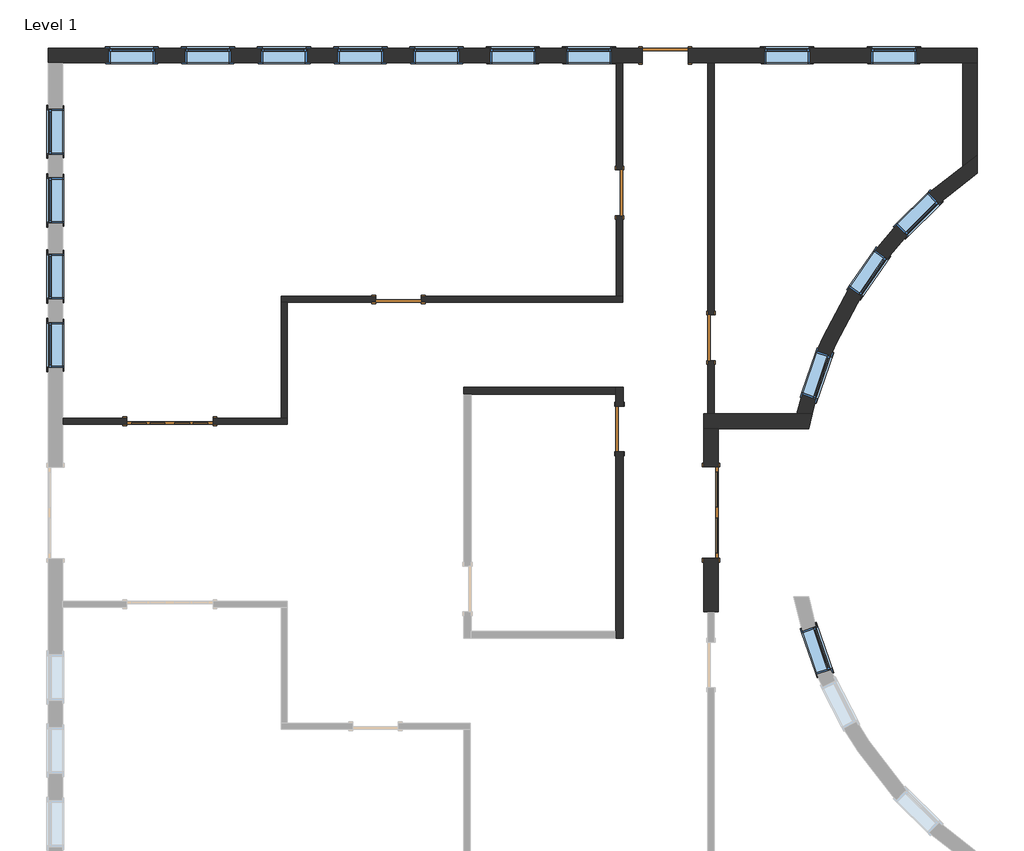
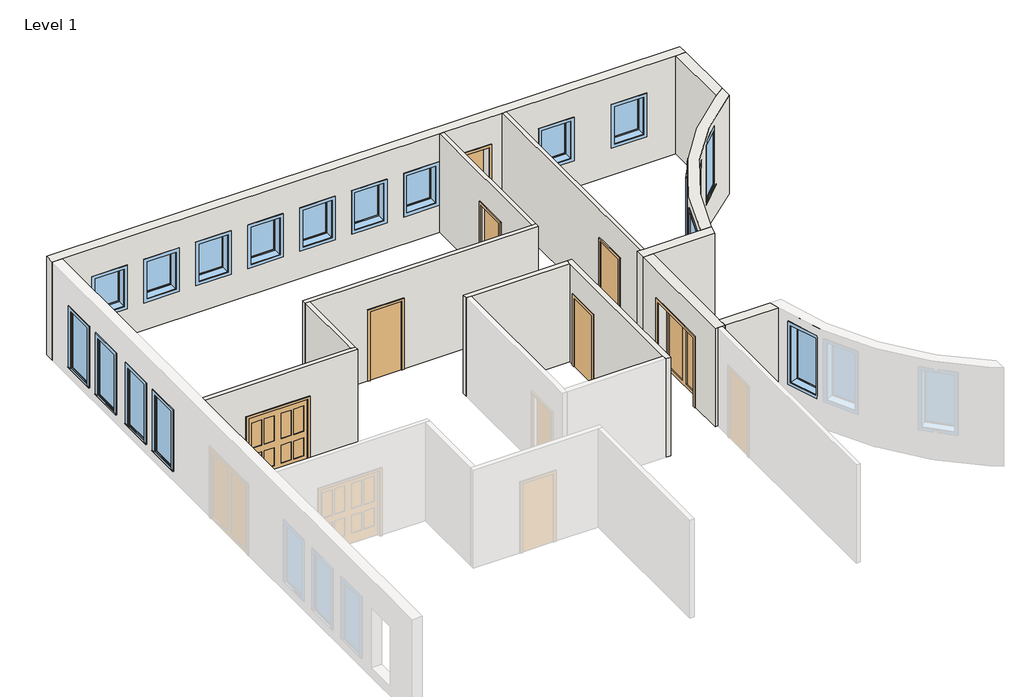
# One storey, part 2 of 2: 17 windows, 13 walls, 7 doors.
"""IFC4 building model written with IfcOpenShell, lengths in millimetres."""

from ifc_helpers import new_model, si_unit, point, frame, frame_2d, origin, origin_with_axes, place, context, project, spatial, polyline, circle_curve, trimmed, segment, composite_curve, outline, extrude, faceted_brep, transform, mapped, element, save
from ifc_brep_helpers import plane_surface, cylinder_surface, revolved_surface, advanced_brep
from components import door_e9d87526, door_c173eac2, door_617da642, door_88503111, door_3dff5d0e, fixed_6768491c, fixed_81e87f0c, fixed_94481ef7

model = new_model("IFC4")

# Units and contexts
model_context = context("Model", 3, world=origin())
ifc_project = project(units=[si_unit("LENGTHUNIT", "METRE", prefix="MILLI")], contexts=[model_context])

# Site, building, storey
site = spatial("IfcSite", under=ifc_project)
building = spatial("IfcBuilding", under=site)
storey = spatial("IfcBuildingStorey", under=building, Name="Level 1", Elevation=0.0)

# Doors
placement = place(None, origin())
door_shape = door_e9d87526(model_context)
element("IfcDoor", 1, ObjectType="Double-Glass 1 : 72\" x 84\"", at=placement, inside=storey, context=model_context, shape_type="MappedRepresentation", body=[
    mapped(door_shape, transform((2356.1311274, -430.8085073, 0.0), x_axis=(0.0, -1.0, 0.0), y_axis=(1.0, 0.0, 0.0), z_axis=(0.0, 0.0, 1.0))),
])
door_2_shape = door_c173eac2(model_context)
element("IfcDoor", 2, ObjectType="Double-Panel 2 : 68\" x 80\"", at=placement, inside=storey, context=model_context, shape_type="MappedRepresentation", body=[
    mapped(door_2_shape, transform((-8461.8876226, 1393.2289927, 0.0), x_axis=(-1.0, 0.0, 0.0), y_axis=(0.0, -1.0, 0.0), z_axis=(0.0, 0.0, 1.0))),
])
door_3_shape = door_617da642(model_context)
element("IfcDoor", 3, ObjectType="Sgl Flush : 36\" x 84\"", at=placement, inside=storey, context=model_context, shape_type="MappedRepresentation", body=[
    mapped(door_3_shape, transform((1444.1123774, 8708.4289927, 0.0), x_axis=(-1.0, 0.0, 0.0), y_axis=(0.0, -1.0, 0.0), z_axis=(0.0, 0.0, 1.0))),
])
door_4_shape = door_88503111(model_context)
element("IfcDoor", 4, ObjectType="Sgl Flush : 36\" x 84\"", at=placement, inside=storey, context=model_context, shape_type="MappedRepresentation", body=[
    mapped(door_4_shape, transform((-3889.8876226, 3831.6289927, 0.0), x_axis=(-1.0, 0.0, 0.0), y_axis=(0.0, -1.0, 0.0), z_axis=(0.0, 0.0, 1.0))),
])
element("IfcDoor", 5, ObjectType="Sgl Flush : 36\" x 84\"", at=placement, inside=storey, context=model_context, shape_type="MappedRepresentation", body=[
    mapped(door_4_shape, transform((529.7123774, 5965.2289927, 0.0), x_axis=(0.0, -1.0, 0.0), y_axis=(1.0, 0.0, 0.0), z_axis=(0.0, 0.0, 1.0))),
])
element("IfcDoor", 6, ObjectType="Sgl Flush : 36\" x 84\"", at=placement, inside=storey, context=model_context, shape_type="MappedRepresentation", body=[
    mapped(door_4_shape, transform((2358.5123774, 3064.8664927, 0.0), x_axis=(0.0, 1.0, 0.0), y_axis=(-1.0, 0.0, 0.0), z_axis=(0.0, 0.0, 1.0))),
])
door_5_shape = door_3dff5d0e(model_context)
element("IfcDoor", 7, ObjectType="Sgl Flush : 36\" x 84\"", at=placement, inside=storey, context=model_context, shape_type="MappedRepresentation", body=[
    mapped(door_5_shape, transform((529.7123774, 1240.8289927, 0.0), x_axis=(0.0, 1.0, 0.0), y_axis=(-1.0, 0.0, 0.0), z_axis=(0.0, 0.0, 1.0))),
])

# Walls
element("IfcWall", 8, ObjectType="Generic - 12\" Masonry", at=placement, inside=storey, context=model_context, shape_type="Brep", body=[
    faceted_brep([(-10895.5251226, 8560.7914927, 0.0), (-10600.2501226, 8560.7914927, 0.0), (467.7998774, 8560.7914927, 0.0), (591.6248774, 8560.7914927, 0.0), (986.9123774, 8560.7914927, 0.0), (986.9123774, 8560.7914927, 2133.6), (1901.3123774, 8560.7914927, 2133.6), (1901.3123774, 8560.7914927, 0.0), (2296.5998774, 8560.7914927, 0.0), (2420.4248774, 8560.7914927, 0.0), (7392.4748774, 8560.7914927, 0.0), (7687.7498774, 8560.7914927, 0.0), (7687.7498774, 8560.7914927, 3048.0), (7392.4748774, 8560.7914927, 3048.0), (2420.4248774, 8560.7914927, 3048.0), (2296.5998774, 8560.7914927, 3048.0), (591.6248774, 8560.7914927, 3048.0), (467.7998774, 8560.7914927, 3048.0), (-10600.2501226, 8560.7914927, 3048.0), (-10895.5251226, 8560.7914927, 3048.0), (-8766.6876226, 8560.7914927, 2133.6), (-8766.6876226, 8560.7914927, 914.4), (-9681.0876226, 8560.7914927, 914.4), (-9681.0876226, 8560.7914927, 2133.6), (-7242.6876226, 8560.7914927, 2133.6), (-7242.6876226, 8560.7914927, 914.4), (-8157.0876226, 8560.7914927, 914.4), (-8157.0876226, 8560.7914927, 2133.6), (-5718.6876226, 8560.7914927, 2133.6), (-5718.6876226, 8560.7914927, 914.4), (-6633.0876226, 8560.7914927, 914.4), (-6633.0876226, 8560.7914927, 2133.6), (-4194.6876226, 8560.7914927, 2133.6), (-4194.6876226, 8560.7914927, 914.4), (-5109.0876226, 8560.7914927, 914.4), (-5109.0876226, 8560.7914927, 2133.6), (-2670.6876226, 8560.7914927, 2133.6), (-2670.6876226, 8560.7914927, 914.4), (-3585.0876226, 8560.7914927, 914.4), (-3585.0876226, 8560.7914927, 2133.6), (-1146.6876226, 8560.7914927, 2133.6), (-1146.6876226, 8560.7914927, 914.4), (-2061.0876226, 8560.7914927, 914.4), (-2061.0876226, 8560.7914927, 2133.6), (377.3123774, 8560.7914927, 2133.6), (377.3123774, 8560.7914927, 914.4), (-537.0876226, 8560.7914927, 914.4), (-537.0876226, 8560.7914927, 2133.6), (4339.7123774, 8560.7914927, 2133.6), (4339.7123774, 8560.7914927, 914.4), (3425.3123774, 8560.7914927, 914.4), (3425.3123774, 8560.7914927, 2133.6), (6473.3123774, 8560.7914927, 2133.6), (6473.3123774, 8560.7914927, 914.4), (5558.9123774, 8560.7914927, 914.4), (5558.9123774, 8560.7914927, 2133.6), (986.9123774, 8856.0664927, 2133.6), (986.9123774, 8856.0664927, 0.0), (-10895.5251226, 8856.0664927, 0.0), (-10895.5251226, 8856.0664927, 3048.0), (7687.7498774, 8856.0664927, 3048.0), (7687.7498774, 8856.0664927, 0.0), (1901.3123774, 8856.0664927, 0.0), (1901.3123774, 8856.0664927, 2133.6), (-8766.6876226, 8856.0664927, 2133.6), (-9681.0876226, 8856.0664927, 2133.6), (-9681.0876226, 8856.0664927, 914.4), (-8766.6876226, 8856.0664927, 914.4), (-7242.6876226, 8856.0664927, 2133.6), (-8157.0876226, 8856.0664927, 2133.6), (-8157.0876226, 8856.0664927, 914.4), (-7242.6876226, 8856.0664927, 914.4), (-5718.6876226, 8856.0664927, 2133.6), (-6633.0876226, 8856.0664927, 2133.6), (-6633.0876226, 8856.0664927, 914.4), (-5718.6876226, 8856.0664927, 914.4), (-4194.6876226, 8856.0664927, 2133.6), (-5109.0876226, 8856.0664927, 2133.6), (-5109.0876226, 8856.0664927, 914.4), (-4194.6876226, 8856.0664927, 914.4), (-2670.6876226, 8856.0664927, 2133.6), (-3585.0876226, 8856.0664927, 2133.6), (-3585.0876226, 8856.0664927, 914.4), (-2670.6876226, 8856.0664927, 914.4), (-1146.6876226, 8856.0664927, 2133.6), (-2061.0876226, 8856.0664927, 2133.6), (-2061.0876226, 8856.0664927, 914.4), (-1146.6876226, 8856.0664927, 914.4), (377.3123774, 8856.0664927, 2133.6), (-537.0876226, 8856.0664927, 2133.6), (-537.0876226, 8856.0664927, 914.4), (377.3123774, 8856.0664927, 914.4), (4339.7123774, 8856.0664927, 2133.6), (3425.3123774, 8856.0664927, 2133.6), (3425.3123774, 8856.0664927, 914.4), (4339.7123774, 8856.0664927, 914.4), (6473.3123774, 8856.0664927, 2133.6), (5558.9123774, 8856.0664927, 2133.6), (5558.9123774, 8856.0664927, 914.4), (6473.3123774, 8856.0664927, 914.4)], [[[0, 1, 2, 3, 4, 5, 6, 7, 8, 9, 10, 11, 12, 13, 14, 15, 16, 17, 18, 19], [20, 21, 22, 23], [24, 25, 26, 27], [28, 29, 30, 31], [32, 33, 34, 35], [36, 37, 38, 39], [40, 41, 42, 43], [44, 45, 46, 47], [48, 49, 50, 51], [52, 53, 54, 55]], [[56, 57, 58, 59, 60, 61, 62, 63], [64, 65, 66, 67], [68, 69, 70, 71], [72, 73, 74, 75], [76, 77, 78, 79], [80, 81, 82, 83], [84, 85, 86, 87], [88, 89, 90, 91], [92, 93, 94, 95], [96, 97, 98, 99]], [[62, 61, 11, 10, 9, 8, 7]], [[58, 57, 4, 3, 2, 1, 0]], [[19, 18, 17, 16, 15, 14, 13, 12, 60, 59]], [[0, 19, 59, 58]], [[5, 4, 57, 56]], [[6, 5, 56, 63]], [[7, 6, 63, 62]], [[12, 11, 61, 60]], [[21, 20, 64, 67]], [[22, 21, 67, 66]], [[23, 22, 66, 65]], [[20, 23, 65, 64]], [[25, 24, 68, 71]], [[26, 25, 71, 70]], [[27, 26, 70, 69]], [[24, 27, 69, 68]], [[29, 28, 72, 75]], [[30, 29, 75, 74]], [[31, 30, 74, 73]], [[28, 31, 73, 72]], [[33, 32, 76, 79]], [[34, 33, 79, 78]], [[35, 34, 78, 77]], [[32, 35, 77, 76]], [[37, 36, 80, 83]], [[38, 37, 83, 82]], [[39, 38, 82, 81]], [[36, 39, 81, 80]], [[41, 40, 84, 87]], [[42, 41, 87, 86]], [[43, 42, 86, 85]], [[40, 43, 85, 84]], [[45, 44, 88, 91]], [[46, 45, 91, 90]], [[47, 46, 90, 89]], [[44, 47, 89, 88]], [[49, 48, 92, 95]], [[50, 49, 95, 94]], [[51, 50, 94, 93]], [[48, 51, 93, 92]], [[53, 52, 96, 99]], [[54, 53, 99, 98]], [[55, 54, 98, 97]], [[52, 55, 97, 96]]]),
])
element("IfcWall", 9, ObjectType="Generic - 12\" Masonry", at=placement, inside=storey, context=model_context, shape_type="AdvancedBrep", body=[
    advanced_brep(
    [(4380.4809086, 1540.8664927, 3048.0), (7687.7498774, 6354.9281942, 3048.0), (7687.7498774, 6711.7450927, 3048.0), (7392.479694, 6507.4464195, 3048.0), (4076.7189167, 1540.8664927, 3048.0), (4380.4809086, 1540.8664927, 0.0), (4076.7189167, 1540.8664927, 0.0), (7392.479694, 6507.4464195, 0.0), (7687.7498774, 6711.7450927, 0.0), (7687.7498774, 6354.9281942, 0.0), (6922.7409562, 5752.5897109, 2743.2), (6922.7409562, 5752.5897109, 914.4), (6273.4213207, 5108.7641359, 914.4), (6273.4213207, 5108.7641359, 2743.2), (5887.0014844, 4648.1395778, 2743.2), (5887.0014844, 4648.1395778, 914.4), (5365.8826583, 3896.7658165, 914.4), (5365.8826583, 3896.7658165, 2743.2), (4758.4259955, 2700.7397006, 2743.2), (4758.4259955, 2700.7397006, 914.4), (4459.0939332, 1836.7213695, 914.4), (4459.0939332, 1836.7213695, 2743.2), (6714.5317839, 5962.575628, 2743.2), (6065.2121485, 5318.750053, 2743.2), (6065.2121485, 5318.750053, 914.4), (6714.5317839, 5962.575628, 914.4), (5644.0119001, 4816.6661533, 2743.2), (5122.893074, 4065.2923921, 2743.2), (5122.893074, 4065.2923921, 914.4), (5644.0119001, 4816.6661533, 914.4), (4479.0078605, 2797.5418211, 2743.2), (4179.6757981, 1933.52349, 2743.2), (4179.6757981, 1933.52349, 914.4), (4479.0078605, 2797.5418211, 914.4)],
    [
        (0, 1, circle_curve(frame((12414.6932373, -435.5710073, 3048.0), z_axis=(0.0, 0.0, -1.0), x_axis=(1.0, 0.0, 0.0)), 8273.7460037)),
        (1, 2),
        (2, 3, circle_curve(frame((12414.6932373, -435.5710073, 3048.0), z_axis=(0.0, 0.0, 1.0), x_axis=(1.0, 0.0, 0.0)), 8569.0210037)),
        (3, 4, circle_curve(frame((12414.6932373, -435.5710073, 3048.0), z_axis=(0.0, 0.0, 1.0), x_axis=(1.0, 0.0, 0.0)), 8569.0209396)),
        (4, 0),
        (5, 6),
        (6, 7, circle_curve(frame((12414.6932373, -435.5710073, 0.0), z_axis=(0.0, 0.0, -1.0), x_axis=(1.0, 0.0, 0.0)), 8569.0210037)),
        (7, 8, circle_curve(frame((12414.6932373, -435.5710073, 0.0), z_axis=(0.0, 0.0, -1.0), x_axis=(1.0, 0.0, 0.0)), 8569.0209396)),
        (8, 9),
        (9, 5, circle_curve(frame((12414.6932373, -435.5710073, 0.0), z_axis=(0.0, 0.0, 1.0), x_axis=(1.0, 0.0, 0.0)), 8273.7460037)),
        (0, 5),
        (9, 1),
        (10, 11),
        (11, 12, circle_curve(frame((12414.6932373, -435.5710073, 914.4), z_axis=(0.0, 0.0, 1.0), x_axis=(1.0, 0.0, 0.0)), 8273.7460037)),
        (12, 13),
        (13, 10, circle_curve(frame((12414.6932373, -435.5710073, 2743.2), z_axis=(0.0, 0.0, -1.0), x_axis=(1.0, 0.0, 0.0)), 8273.7460037)),
        (14, 15),
        (15, 16, circle_curve(frame((12414.6932373, -435.5710073, 914.4), z_axis=(0.0, 0.0, 1.0), x_axis=(1.0, 0.0, 0.0)), 8273.7460037)),
        (16, 17),
        (17, 14, circle_curve(frame((12414.6932373, -435.5710073, 2743.2), z_axis=(0.0, 0.0, -1.0), x_axis=(1.0, 0.0, 0.0)), 8273.7460037)),
        (18, 19),
        (19, 20, circle_curve(frame((12414.6932373, -435.5710073, 914.4), z_axis=(0.0, 0.0, 1.0), x_axis=(1.0, 0.0, 0.0)), 8273.7460037)),
        (20, 21),
        (21, 18, circle_curve(frame((12414.6932373, -435.5710073, 2743.2), z_axis=(0.0, 0.0, -1.0), x_axis=(1.0, 0.0, 0.0)), 8273.7460037)),
        (2, 8),
        (6, 4),
        (22, 23, circle_curve(frame((12414.6932373, -435.5710073, 2743.2), z_axis=(0.0, 0.0, 1.0), x_axis=(1.0, 0.0, 0.0)), 8569.0210037)),
        (23, 24),
        (24, 25, circle_curve(frame((12414.6932373, -435.5710073, 914.4), z_axis=(0.0, 0.0, -1.0), x_axis=(1.0, 0.0, 0.0)), 8569.0210037)),
        (25, 22),
        (26, 27, circle_curve(frame((12414.6932373, -435.5710073, 2743.2), z_axis=(0.0, 0.0, 1.0), x_axis=(1.0, 0.0, 0.0)), 8569.0210037)),
        (27, 28),
        (28, 29, circle_curve(frame((12414.6932373, -435.5710073, 914.4), z_axis=(0.0, 0.0, -1.0), x_axis=(1.0, 0.0, 0.0)), 8569.0210037)),
        (29, 26),
        (30, 31, circle_curve(frame((12414.6932373, -435.5710073, 2743.2), z_axis=(0.0, 0.0, 1.0), x_axis=(1.0, 0.0, 0.0)), 8569.0210037)),
        (31, 32),
        (32, 33, circle_curve(frame((12414.6932373, -435.5710073, 914.4), z_axis=(0.0, 0.0, -1.0), x_axis=(1.0, 0.0, 0.0)), 8569.0210037)),
        (33, 30),
        (10, 22),
        (25, 11),
        (24, 12),
        (23, 13),
        (14, 26),
        (29, 15),
        (28, 16),
        (27, 17),
        (18, 30),
        (33, 19),
        (32, 20),
        (31, 21),
    ],
    [
        plane_surface(frame((20688.4392409, -435.5710073, 3048.0), z_axis=(0.0, 0.0, 1.0), x_axis=(0.0, -1.0, 0.0))),
        plane_surface(frame((20688.4392409, -435.5710073, 0.0), z_axis=(0.0, 0.0, -1.0), x_axis=(0.0, 1.0, 0.0))),
        revolved_surface(polyline([(20688.439241, -435.5710073, 0.0), (20688.439241, -435.5710073, 3048.0)]), (12414.6932373, -435.5710073, 0.0), (0.0, 0.0, -1.0)),
        cylinder_surface(frame((12414.6932373, -435.5710073, 0.0), z_axis=(0.0, 0.0, 1.0), x_axis=(1.0, 0.0, 0.0)), 8569.0210037),
        plane_surface(frame((7687.7498774, -9718.0016441, 0.0), z_axis=(1.0, 0.0, 0.0), x_axis=(0.0, 1.0, 0.0))),
        plane_surface(frame((4194.2801895, 1540.8664927, 0.0), z_axis=(0.0, -1.0, 0.0), x_axis=(-1.0, 0.0, 0.0))),
        plane_surface(frame((6922.7409562, 5752.5897109, 2743.2), z_axis=(-0.7101045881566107, -0.7040962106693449, 0.0), x_axis=(-0.7040962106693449, 0.7101045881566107, 0.0))),
        plane_surface(frame((6922.7409562, 5752.5897109, 914.4), z_axis=(0.0, 0.0, 1.0000000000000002), x_axis=(-0.7040962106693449, 0.7101045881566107, 0.0))),
        plane_surface(frame((6273.4213207, 5108.7641359, 914.4), z_axis=(0.710104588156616, 0.7040962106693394, 0.0), x_axis=(-0.7040962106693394, 0.710104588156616, 0.0))),
        plane_surface(frame((6273.4213207, 5108.7641359, 2743.2), z_axis=(0.0, 0.0, -1.0), x_axis=(-0.7040962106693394, 0.710104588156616, 0.0))),
        plane_surface(frame((5887.0014844, 4648.1395778, 2743.2), z_axis=(-0.5699024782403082, -0.8217123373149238, 0.0), x_axis=(-0.8217123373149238, 0.5699024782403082, 0.0))),
        plane_surface(frame((5887.0014844, 4648.1395778, 914.4), z_axis=(0.0, 0.0, 1.0), x_axis=(-0.8217123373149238, 0.5699024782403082, 0.0))),
        plane_surface(frame((5365.8826583, 3896.7658165, 914.4), z_axis=(0.5699024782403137, 0.82171233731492, 0.0), x_axis=(-0.82171233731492, 0.5699024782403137, 0.0))),
        plane_surface(frame((5365.8826583, 3896.7658165, 2743.2), z_axis=(0.0, 0.0, -1.0), x_axis=(-0.82171233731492, 0.5699024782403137, 0.0))),
        plane_surface(frame((4758.4259955, 2700.7397006, 2743.2), z_axis=(-0.3273535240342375, -0.9449019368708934, 0.0), x_axis=(-0.9449019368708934, 0.3273535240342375, 0.0))),
        plane_surface(frame((4758.4259955, 2700.7397006, 914.4), z_axis=(0.0, 0.0, 1.0), x_axis=(-0.9449019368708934, 0.3273535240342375, 0.0))),
        plane_surface(frame((4459.0939332, 1836.7213695, 914.4), z_axis=(0.3273535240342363, 0.944901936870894, 0.0), x_axis=(-0.944901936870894, 0.3273535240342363, 0.0))),
        plane_surface(frame((4459.0939332, 1836.7213695, 2743.2), z_axis=(0.0, 0.0, -1.0000000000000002), x_axis=(-0.944901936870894, 0.3273535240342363, 0.0))),
    ],
    [
        (0, [[1, 2, 3, 4, 5]]),
        (1, [[6, 7, 8, 9, 10]]),
        (2, [[-1, 11, -10, 12], [13, 14, 15, 16], [17, 18, 19, 20], [21, 22, 23, 24]]),
        (3, [[-4, -3, 25, -8, -7, 26], [27, 28, 29, 30], [31, 32, 33, 34], [35, 36, 37, 38]]),
        (4, [[-2, -12, -9, -25]]),
        (5, [[-5, -26, -6, -11]]),
        (6, [[-13, 39, -30, 40]]),
        (7, [[-14, -40, -29, 41]]),
        (8, [[-15, -41, -28, 42]]),
        (9, [[-16, -42, -27, -39]]),
        (10, [[-17, 43, -34, 44]]),
        (11, [[-18, -44, -33, 45]]),
        (12, [[-19, -45, -32, 46]]),
        (13, [[-20, -46, -31, -43]]),
        (14, [[-21, 47, -38, 48]]),
        (15, [[-22, -48, -37, 49]]),
        (16, [[-23, -49, -36, 50]]),
        (17, [[-24, -50, -35, -47]]),
    ],
),
])
element("IfcWall", 10, ObjectType="Generic - 12\" Masonry", at=placement, inside=storey, context=model_context, shape_type="SweptSolid", body=[
    extrude(outline(composite_curve([segment(polyline([(7687.7498774, 8560.7914927), (7687.7498774, 6711.7450927)]), True, "CONTINUOUS"), segment(trimmed(circle_curve(frame_2d((12414.6932373, -435.5710073)), 8569.0210037), [point((7687.7498774, 6711.7450927))], [point((7392.4748774, 6507.4430145))], True, "CARTESIAN"), True, "CONTINUOUS"), segment(polyline([(7392.4748774, 6507.4430145), (7392.4748774, 8560.7914927), (7687.7498774, 8560.7914927)]), True, "CONTINUOUS")], self_intersect=False)), origin_with_axes(), (0.0, 0.0, 1.0), 3048.0),
])
element("IfcWall", 11, ObjectType="Generic - 12\" Masonry", at=placement, inside=storey, context=model_context, shape_type="Brep", body=[
    faceted_brep([(2506.1498774, -2412.0085073, 3048.0), (2506.1498774, -2116.7335073, 3048.0), (2506.1498774, 1245.5914927, 3048.0), (2210.8748774, 1245.5914927, 3048.0), (2210.8748774, -2412.0085073, 3048.0), (2296.5998774, -2412.0085073, 3048.0), (2420.4248774, -2412.0085073, 3048.0), (2506.1498774, -2412.0085073, 0.0), (2506.1498774, -2116.7335073, 0.0), (2506.1498774, -1345.2085073, 0.0), (2506.1498774, -1345.2085073, 2133.6), (2506.1498774, 483.5914927, 2133.6), (2506.1498774, 483.5914927, 0.0), (2506.1498774, 1245.5914927, 0.0), (2210.8748774, -1345.2085073, 2133.6), (2210.8748774, -1345.2085073, 0.0), (2210.8748774, -2412.0085073, 0.0), (2210.8748774, 1245.5914927, 0.0), (2210.8748774, 483.5914927, 0.0), (2210.8748774, 483.5914927, 2133.6), (2420.4248774, -2412.0085073, 0.0), (2296.5998774, -2412.0085073, 0.0)], [[[0, 1, 2, 3, 4, 5, 6]], [[7, 8, 9, 10, 11, 12, 13, 2, 1, 0]], [[14, 15, 16, 4, 3, 17, 18, 19]], [[16, 15, 9, 8, 7, 20, 21]], [[18, 17, 13, 12]], [[2, 13, 17, 3]], [[7, 0, 6, 5, 4, 16, 21, 20]], [[10, 9, 15, 14]], [[11, 10, 14, 19]], [[12, 11, 19, 18]]]),
])
element("IfcWall", 12, ObjectType="Generic - 12\" Masonry", at=placement, inside=storey, context=model_context, shape_type="AdvancedBrep", body=[
    advanced_brep(
    [(4380.4809086, 1540.8664927, 0.0), (4076.7189167, 1540.8664927, 0.0), (2420.4248774, 1540.8664927, 0.0), (2296.5998774, 1540.8664927, 0.0), (2210.8748774, 1540.8664927, 0.0), (2210.8748774, 1540.8664927, 3048.0), (2296.5998774, 1540.8664927, 3048.0), (2420.4248774, 1540.8664927, 3048.0), (4076.7189167, 1540.8664927, 3048.0), (4380.4809086, 1540.8664927, 3048.0), (4313.5472948, 1245.5914927, 0.0), (4313.5472948, 1245.5914927, 3048.0), (2506.1498774, 1245.5914927, 3048.0), (2210.8748774, 1245.5914927, 3048.0), (2210.8748774, 1245.5914927, 0.0), (2506.1498774, 1245.5914927, 0.0)],
    [
        (0, 1),
        (1, 2),
        (2, 3),
        (3, 4),
        (4, 5),
        (5, 6),
        (6, 7),
        (7, 8),
        (8, 9),
        (9, 0),
        (10, 11),
        (11, 12),
        (12, 13),
        (13, 14),
        (14, 15),
        (15, 10),
        (0, 10, circle_curve(frame((12414.6932373, -435.5710073, 0.0), z_axis=(0.0, 0.0, 1.0), x_axis=(1.0, 0.0, 0.0)), 8273.7460037)),
        (14, 4),
        (5, 13),
        (11, 9, circle_curve(frame((12414.6932373, -435.5710073, 3048.0), z_axis=(0.0, 0.0, -1.0), x_axis=(1.0, 0.0, 0.0)), 8273.7460037)),
    ],
    [
        plane_surface(frame((4194.2801895, 1540.8664927, 0.0), z_axis=(0.0, 1.0, 0.0), x_axis=(-1.0, 0.0, 0.0))),
        plane_surface(frame((4194.2801895, 1245.5914927, 0.0), z_axis=(0.0, -1.0, 0.0), x_axis=(1.0, 0.0, 0.0))),
        plane_surface(frame((4194.2801895, 1540.8664927, 0.0), z_axis=(0.0, 0.0, -1.0), x_axis=(0.0, -1.0, 0.0))),
        plane_surface(frame((2358.5123774, 1540.8664927, 3048.0), z_axis=(0.0, 0.0, 1.0), x_axis=(0.0, -1.0, 0.0))),
        revolved_surface(polyline([(20688.439241, -435.5710073, 0.0), (20688.439241, -435.5710073, 3048.0)]), (12414.6932373, -435.5710073, 0.0), (0.0, 0.0, -1.0)),
        plane_surface(frame((2210.8748774, -2873.9710073, 0.0), z_axis=(-1.0, 0.0, 0.0), x_axis=(0.0, -1.0, 0.0))),
    ],
    [
        (0, [[1, 2, 3, 4, 5, 6, 7, 8, 9, 10]]),
        (1, [[11, 12, 13, 14, 15, 16]]),
        (2, [[-4, -3, -2, -1, 17, -16, -15, 18]]),
        (3, [[-9, -8, -7, -6, 19, -13, -12, 20]]),
        (4, [[-10, -20, -11, -17]]),
        (5, [[-5, -18, -14, -19]]),
    ],
),
])
element("IfcWall", 13, ObjectType="Generic - 12\" Masonry", at=placement, inside=storey, context=model_context, shape_type="SweptSolid", body=[
    extrude(outline(composite_curve([segment(polyline([(4076.7189167, -2412.0085073), (2506.1498774, -2412.0085073), (2506.1498774, -2116.7335073), (4012.2047005, -2116.7335073)]), True, "CONTINUOUS"), segment(trimmed(circle_curve(frame_2d((12414.6932373, -435.5710073)), 8569.0210037), [point((4012.2047005, -2116.7335073))], [point((4076.7189167, -2412.0085073))], True, "CARTESIAN"), True, "CONTINUOUS")], self_intersect=False)), origin_with_axes(), (0.0, 0.0, 1.0), 3048.0),
])
element("IfcWall", 14, ObjectType="Generic - 6\" Masonry", at=placement, inside=storey, context=model_context, shape_type="Brep", body=[
    faceted_brep([(-2580.2001226, 1931.3914927, 0.0), (-2437.3251226, 1931.3914927, 0.0), (458.2748774, 1931.3914927, 0.0), (458.2748774, 1931.3914927, 3048.0), (-2437.3251226, 1931.3914927, 3048.0), (-2580.2001226, 1931.3914927, 3048.0), (-2580.2001226, 2074.2664927, 0.0), (-2580.2001226, 2074.2664927, 3048.0), (458.2748774, 2074.2664927, 3048.0), (458.2748774, 2074.2664927, 0.0)], [[[0, 1, 2, 3, 4, 5]], [[6, 7, 8, 9]], [[2, 1, 0, 6, 9]], [[5, 4, 3, 8, 7]], [[0, 5, 7, 6]], [[3, 2, 9, 8]]]),
])
element("IfcWall", 15, ObjectType="Generic - 6\" Masonry", at=placement, inside=storey, context=model_context, shape_type="Brep", body=[
    faceted_brep([(458.2748774, 2074.2664927, 0.0), (458.2748774, 1931.3914927, 0.0), (458.2748774, 1698.0289927, 0.0), (458.2748774, 1698.0289927, 2133.6), (458.2748774, 783.6289927, 2133.6), (458.2748774, 783.6289927, 0.0), (458.2748774, -2802.5335073, 0.0), (458.2748774, -2945.4085073, 0.0), (458.2748774, -2945.4085073, 3048.0), (458.2748774, -2802.5335073, 3048.0), (458.2748774, 1931.3914927, 3048.0), (458.2748774, 2074.2664927, 3048.0), (601.1498774, 1698.0289927, 2133.6), (601.1498774, 1698.0289927, 0.0), (601.1498774, 2074.2664927, 0.0), (601.1498774, 2074.2664927, 3048.0), (601.1498774, -2945.4085073, 3048.0), (601.1498774, -2945.4085073, 0.0), (601.1498774, 783.6289927, 0.0), (601.1498774, 783.6289927, 2133.6)], [[[0, 1, 2, 3, 4, 5, 6, 7, 8, 9, 10, 11]], [[12, 13, 14, 15, 16, 17, 18, 19]], [[14, 13, 2, 1, 0]], [[18, 17, 7, 6, 5]], [[11, 10, 9, 8, 16, 15]], [[0, 11, 15, 14]], [[8, 7, 17, 16]], [[3, 2, 13, 12]], [[4, 3, 12, 19]], [[5, 4, 19, 18]]]),
])
element("IfcWall", 16, ObjectType="Interior - 4 7/8\" Partition (1-hr)", at=placement, inside=storey, context=model_context, shape_type="Brep", body=[
    faceted_brep([(-10600.2501226, 1331.3164927, 3048.0), (-6113.9751226, 1331.3164927, 3048.0), (-6113.9751226, 1455.1414927, 3048.0), (-6237.8001226, 1455.1414927, 3048.0), (-10600.2501226, 1455.1414927, 3048.0), (-10600.2501226, 1331.3164927, 0.0), (-9325.4876226, 1331.3164927, 0.0), (-9325.4876226, 1331.3164927, 2032.0), (-7598.2876226, 1331.3164927, 2032.0), (-7598.2876226, 1331.3164927, 0.0), (-6113.9751226, 1331.3164927, 0.0), (-6113.9751226, 1455.1414927, 0.0), (-6237.8001226, 1455.1414927, 0.0), (-7598.2876226, 1455.1414927, 0.0), (-7598.2876226, 1455.1414927, 2032.0), (-9325.4876226, 1455.1414927, 2032.0), (-9325.4876226, 1455.1414927, 0.0), (-10600.2501226, 1455.1414927, 0.0)], [[[0, 1, 2, 3, 4]], [[1, 0, 5, 6, 7, 8, 9, 10]], [[4, 3, 2, 11, 12, 13, 14, 15, 16, 17]], [[5, 17, 16, 6]], [[11, 10, 9, 13, 12]], [[5, 0, 4, 17]], [[1, 10, 11, 2]], [[15, 7, 6, 16]], [[7, 15, 14, 8]], [[8, 14, 13, 9]]]),
])
element("IfcWall", 17, ObjectType="Interior - 4 7/8\" Partition (1-hr)", at=placement, inside=storey, context=model_context, shape_type="Brep", body=[
    faceted_brep([(-6237.8001226, 3769.7164927, 3048.0), (-6113.9751226, 3769.7164927, 3048.0), (591.6248774, 3769.7164927, 3048.0), (591.6248774, 3893.5414927, 3048.0), (467.7998774, 3893.5414927, 3048.0), (-6237.8001226, 3893.5414927, 3048.0), (-6237.8001226, 3769.7164927, 0.0), (-6113.9751226, 3769.7164927, 0.0), (-4347.0876226, 3769.7164927, 0.0), (-4347.0876226, 3769.7164927, 2133.6), (-3432.6876226, 3769.7164927, 2133.6), (-3432.6876226, 3769.7164927, 0.0), (591.6248774, 3769.7164927, 0.0), (-4347.0876226, 3893.5414927, 2133.6), (-4347.0876226, 3893.5414927, 0.0), (-6237.8001226, 3893.5414927, 0.0), (591.6248774, 3893.5414927, 0.0), (467.7998774, 3893.5414927, 0.0), (-3432.6876226, 3893.5414927, 0.0), (-3432.6876226, 3893.5414927, 2133.6)], [[[0, 1, 2, 3, 4, 5]], [[6, 7, 8, 9, 10, 11, 12, 2, 1, 0]], [[13, 14, 15, 5, 4, 3, 16, 17, 18, 19]], [[15, 14, 8, 7, 6]], [[18, 17, 16, 12, 11]], [[2, 12, 16, 3]], [[6, 0, 5, 15]], [[9, 8, 14, 13]], [[10, 9, 13, 19]], [[11, 10, 19, 18]]]),
])
element("IfcWall", 18, ObjectType="Interior - 4 7/8\" Partition (1-hr)", at=placement, inside=storey, context=model_context, shape_type="SweptSolid", body=[
    extrude(outline(polyline([(5508.0289927, 2133.6), (5508.0289927, 0.0), (3893.5414927, 0.0), (3893.5414927, 3048.0), (8560.7914927, 3048.0), (8560.7914927, 0.0), (6422.4289927, 0.0), (6422.4289927, 2133.6), (5508.0289927, 2133.6)])), frame((467.7998774, 0.0, 0.0), z_axis=(1.0, 0.0, 0.0), x_axis=(0.0, 1.0, 0.0)), (0.0, 0.0, 1.0), 123.825),
])
element("IfcWall", 19, ObjectType="Interior - 4 7/8\" Partition (1-hr)", at=placement, inside=storey, context=model_context, shape_type="SweptSolid", body=[
    extrude(outline(polyline([(-6237.8001226, 1455.1414927), (-6237.8001226, 3769.7164927), (-6113.9751226, 3769.7164927), (-6113.9751226, 1455.1414927), (-6237.8001226, 1455.1414927)])), origin_with_axes(), (0.0, 0.0, 1.0), 3048.0),
])
element("IfcWall", 20, ObjectType="Interior - 4 7/8\" Partition (1-hr)", at=placement, inside=storey, context=model_context, shape_type="SweptSolid", body=[
    extrude(outline(polyline([(8560.7914927, 0.0), (3522.0664927, 0.0), (3522.0664927, 2133.6), (2607.6664927, 2133.6), (2607.6664927, 0.0), (1540.8664927, 0.0), (1540.8664927, 3048.0), (8560.7914927, 3048.0), (8560.7914927, 0.0)])), frame((2296.5998774, 0.0, 0.0), z_axis=(1.0, 0.0, 0.0), x_axis=(0.0, 1.0, 0.0)), (0.0, 0.0, 1.0), 123.825),
])

# Windows
fixed_shape = fixed_6768491c(model_context)
element("IfcWindow", 21, ObjectType="Fixed : 36\"w x 72\"h", at=placement, inside=storey, context=model_context, shape_type="MappedRepresentation", body=[
    mapped(fixed_shape, transform((4481.7291739, -3224.2029694, 609.6), x_axis=(0.32735352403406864, -0.9449019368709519, 0.0), y_axis=(0.9449019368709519, 0.32735352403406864, 0.0), z_axis=(0.0, 0.0, 1.0))),
])
fixed_2_shape = fixed_81e87f0c(model_context)
element("IfcWindow", 22, ObjectType="Fixed : 36\"w x 72\"h", at=placement, inside=storey, context=model_context, shape_type="MappedRepresentation", body=[
    mapped(fixed_2_shape, transform((-10747.8876226, 2879.1289927, 0.0), x_axis=(0.0, -1.0, 0.0), y_axis=(1.0, 0.0, 0.0), z_axis=(0.0, 0.0, 1.0))),
])
element("IfcWindow", 23, ObjectType="Fixed : 36\"w x 72\"h", at=placement, inside=storey, context=model_context, shape_type="MappedRepresentation", body=[
    mapped(fixed_2_shape, transform((-10747.8876226, 5774.7289927, 0.0), x_axis=(0.0, -1.0, 0.0), y_axis=(1.0, 0.0, 0.0), z_axis=(0.0, 0.0, 1.0))),
])
element("IfcWindow", 24, ObjectType="Fixed : 36\"w x 72\"h", at=placement, inside=storey, context=model_context, shape_type="MappedRepresentation", body=[
    mapped(fixed_2_shape, transform((-10747.8876226, 4250.7289927, 0.0), x_axis=(0.0, -1.0, 0.0), y_axis=(1.0, 0.0, 0.0), z_axis=(0.0, 0.0, 1.0))),
])
element("IfcWindow", 25, ObjectType="Fixed : 36\"w x 72\"h", at=placement, inside=storey, context=model_context, shape_type="MappedRepresentation", body=[
    mapped(fixed_2_shape, transform((-10747.8876226, 7146.3289927, 0.0), x_axis=(0.0, -1.0, 0.0), y_axis=(1.0, 0.0, 0.0), z_axis=(0.0, 0.0, 1.0))),
])
element("IfcWindow", 26, ObjectType="Fixed : 36\"w x 72\"h", at=placement, inside=storey, context=model_context, shape_type="MappedRepresentation", body=[
    mapped(fixed_2_shape, transform((4481.7291739, 2353.0609547, 609.6), x_axis=(0.32735352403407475, 0.9449019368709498, 0.0), y_axis=(-0.9449019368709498, 0.32735352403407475, 0.0), z_axis=(0.0, 0.0, 1.0))),
])
element("IfcWindow", 27, ObjectType="Fixed : 36\"w x 72\"h", at=placement, inside=storey, context=model_context, shape_type="MappedRepresentation", body=[
    mapped(fixed_2_shape, transform((5526.8398006, 4387.8989143, 609.6), x_axis=(0.569902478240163, 0.8217123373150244, 0.0), y_axis=(-0.8217123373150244, 0.569902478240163, 0.0), z_axis=(0.0, 0.0, 1.0))),
])
element("IfcWindow", 28, ObjectType="Fixed : 36\"w x 72\"h", at=placement, inside=storey, context=model_context, shape_type="MappedRepresentation", body=[
    mapped(fixed_2_shape, transform((6521.185119, 5562.3410552, 609.6), x_axis=(0.7101045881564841, 0.7040962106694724, 0.0), y_axis=(-0.7040962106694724, 0.7101045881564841, 0.0), z_axis=(0.0, 0.0, 1.0))),
])
fixed_3_shape = fixed_94481ef7(model_context)
element("IfcWindow", 29, ObjectType="Fixed : 36\"w x 48\"h", at=placement, inside=storey, context=model_context, shape_type="MappedRepresentation", body=[
    mapped(fixed_3_shape, transform((-9185.7876226, 8708.4289927, 0.0), x_axis=(1.0, 0.0, 0.0), y_axis=(0.0, 1.0, 0.0), z_axis=(0.0, 0.0, 1.0))),
])
element("IfcWindow", 30, ObjectType="Fixed : 36\"w x 48\"h", at=placement, inside=storey, context=model_context, shape_type="MappedRepresentation", body=[
    mapped(fixed_3_shape, transform((-7661.7876226, 8708.4289927, 0.0), x_axis=(1.0, 0.0, 0.0), y_axis=(0.0, 1.0, 0.0), z_axis=(0.0, 0.0, 1.0))),
])
element("IfcWindow", 31, ObjectType="Fixed : 36\"w x 48\"h", at=placement, inside=storey, context=model_context, shape_type="MappedRepresentation", body=[
    mapped(fixed_3_shape, transform((-6137.7876226, 8708.4289927, 0.0), x_axis=(1.0, 0.0, 0.0), y_axis=(0.0, 1.0, 0.0), z_axis=(0.0, 0.0, 1.0))),
])
element("IfcWindow", 32, ObjectType="Fixed : 36\"w x 48\"h", at=placement, inside=storey, context=model_context, shape_type="MappedRepresentation", body=[
    mapped(fixed_3_shape, transform((-4613.7876226, 8708.4289927, 0.0), x_axis=(1.0, 0.0, 0.0), y_axis=(0.0, 1.0, 0.0), z_axis=(0.0, 0.0, 1.0))),
])
element("IfcWindow", 33, ObjectType="Fixed : 36\"w x 48\"h", at=placement, inside=storey, context=model_context, shape_type="MappedRepresentation", body=[
    mapped(fixed_3_shape, transform((-3089.7876226, 8708.4289927, 0.0), x_axis=(1.0, 0.0, 0.0), y_axis=(0.0, 1.0, 0.0), z_axis=(0.0, 0.0, 1.0))),
])
element("IfcWindow", 34, ObjectType="Fixed : 36\"w x 48\"h", at=placement, inside=storey, context=model_context, shape_type="MappedRepresentation", body=[
    mapped(fixed_3_shape, transform((-1565.7876226, 8708.4289927, 0.0), x_axis=(1.0, 0.0, 0.0), y_axis=(0.0, 1.0, 0.0), z_axis=(0.0, 0.0, 1.0))),
])
element("IfcWindow", 35, ObjectType="Fixed : 36\"w x 48\"h", at=placement, inside=storey, context=model_context, shape_type="MappedRepresentation", body=[
    mapped(fixed_3_shape, transform((-41.7876226, 8708.4289927, 0.0), x_axis=(1.0, 0.0, 0.0), y_axis=(0.0, 1.0, 0.0), z_axis=(0.0, 0.0, 1.0))),
])
element("IfcWindow", 36, ObjectType="Fixed : 36\"w x 48\"h", at=placement, inside=storey, context=model_context, shape_type="MappedRepresentation", body=[
    mapped(fixed_3_shape, transform((3920.6123774, 8708.4289927, 0.0), x_axis=(1.0, 0.0, 0.0), y_axis=(0.0, 1.0, 0.0), z_axis=(0.0, 0.0, 1.0))),
])
element("IfcWindow", 37, ObjectType="Fixed : 36\"w x 48\"h", at=placement, inside=storey, context=model_context, shape_type="MappedRepresentation", body=[
    mapped(fixed_3_shape, transform((6054.2123774, 8708.4289927, 0.0), x_axis=(1.0, 0.0, 0.0), y_axis=(0.0, 1.0, 0.0), z_axis=(0.0, 0.0, 1.0))),
])

save(model, "model.ifc")
